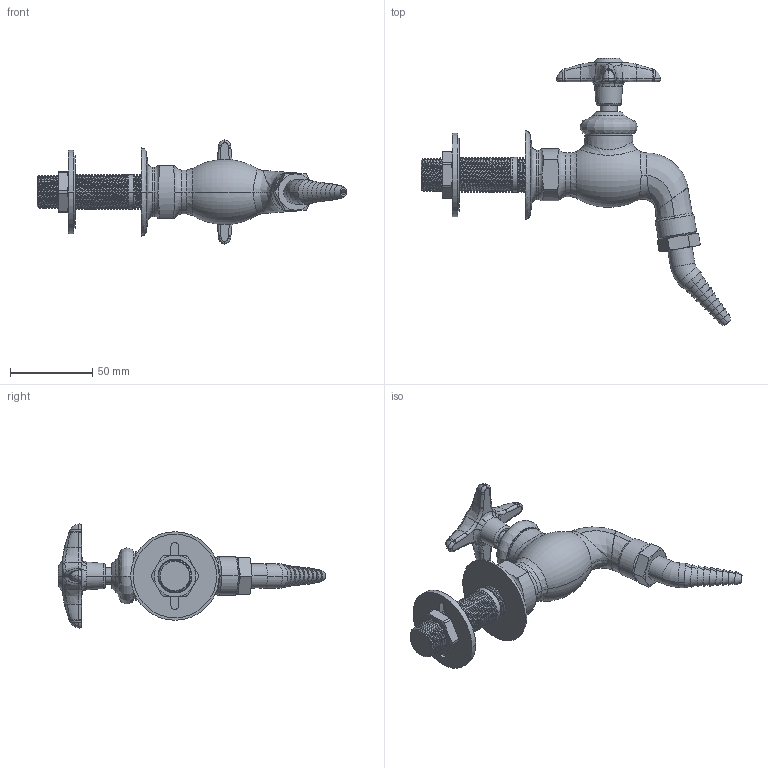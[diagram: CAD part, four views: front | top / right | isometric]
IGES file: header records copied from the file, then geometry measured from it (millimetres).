
Start section:  PTC IGES file: LWV4-B21.igs
Global section: file name: LWV4-B21.igs; native system: Creo Parametric by PTC Inc.; preprocessor: 2014500; author: usch_engrender; organization: Unknown; date: 20150915.131559; units: inch
Bounding box: 188.8 x 162.98 x 63.42 mm (x, y, z)
Volume: 145385.8 mm3; surface area: 41538.4 mm2
Topology: 1 solids, 5 shells, 531 faces, 1277 edges, 778 vertices
Faces by surface type: bspline 278, revolution 253
